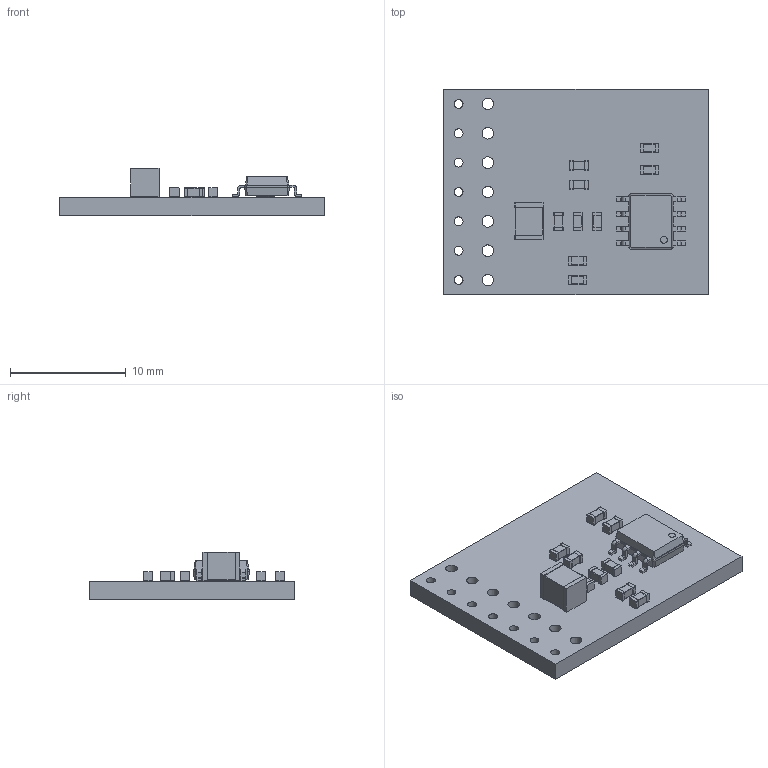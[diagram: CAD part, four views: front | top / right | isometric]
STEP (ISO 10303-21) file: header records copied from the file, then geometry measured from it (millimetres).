
FILE_DESCRIPTION(('KiCad electronic assembly'),'2;1');
FILE_NAME('Audio_Facile.step','2023-05-27T16:58:53',('Pcbnew'),('Kicad') ,'Open CASCADE STEP processor 7.6','KiCad to STEP converter','Unknown' );
FILE_SCHEMA(('AUTOMOTIVE_DESIGN { 1 0 10303 214 1 1 1 1 }'));
Length unit declared in the file: millimetre
Products named in the file (10): Audio_Facile 1; C_1210_3225Metric; SOLID; C_0603_1608Metric; L_0603_1608Metric; SOIC-8_3.9x4.9mm_P1.27mm; 10_Audio_Facile PCB
Assembly tree (16 placements, depth 3):
  Audio_Facile 1
    C_1210_3225Metric
      SOLID
    C_0603_1608Metric  x7
      SOLID
    L_0603_1608Metric  x2
      SOLID
    SOIC-8_3.9x4.9mm_P1.27mm
      SOLID
    10_Audio_Facile PCB
Bounding box: 22.86 x 17.78 x 4.15 mm (x, y, z)
Volume: 694.1 mm3; surface area: 1166.9 mm2
Topology: 12 solids, 12 shells, 456 faces, 1177 edges, 766 vertices
Faces by surface type: bspline 436, cylinder 14, plane 6
Full cylindrical faces by diameter (mm): 0.762 x7, 1 x7
Entity records: 17215 total; most frequent: CARTESIAN_POINT 6353, B_SPLINE_CURVE_WITH_KNOTS 1581, ORIENTED_EDGE 1346, PCURVE 1346, DEFINITIONAL_REPRESENTATION 1346, EDGE_CURVE 673, SURFACE_CURVE 658, VERTEX_POINT 430
